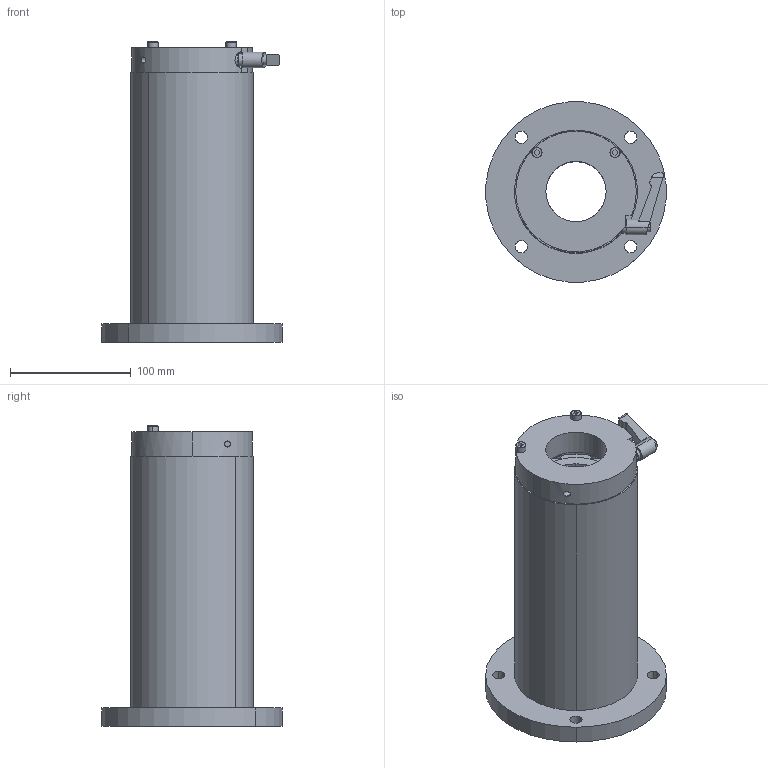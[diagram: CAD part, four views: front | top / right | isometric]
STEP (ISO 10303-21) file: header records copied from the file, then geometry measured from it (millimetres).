
FILE_DESCRIPTION (( 'STEP AP214' ), '1' );
FILE_NAME ('LFW50-C.STEP', '2023-06-27T01:57:08', ( '' ), ( '' ), 'SwSTEP 2.0', 'SolidWorks 2019', '' );
FILE_SCHEMA (( 'AUTOMOTIVE_DESIGN' ));
Length unit declared in the file: millimetre
Products named in the file (3): “ÁSCK5020CO-S5.5; LFW50; LFW50-C
Assembly tree (2 placements, depth 2):
  LFW50-C
    LFW50
    “ÁSCK5020CO-S5.5
Bounding box: 149.43 x 149.43 x 249 mm (x, y, z)
Volume: 1575123.5 mm3; surface area: 190041 mm2
Topology: 4 solids, 9 shells, 184 faces, 441 edges, 284 vertices
Faces by surface type: cylinder 77, plane 54, bspline 34, cone 11, torus 8
Entity records: 7934 total; most frequent: CARTESIAN_POINT 1740, DIRECTION 932, ORIENTED_EDGE 882, EDGE_CURVE 441, AXIS2_PLACEMENT_3D 378, VERTEX_POINT 284, EDGE_LOOP 225, CIRCLE 223
